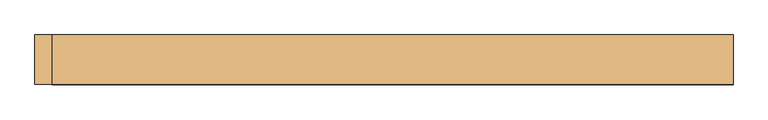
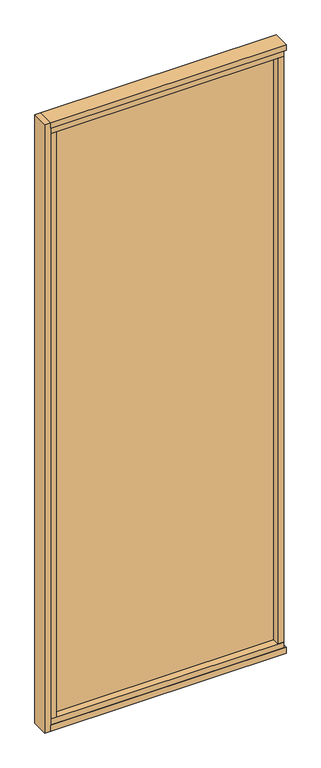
"""IFC4 building model written with IfcOpenShell, lengths in millimetres: door geometry, Mobiliário_Mobiliário de Escritório_Painel de Vidro Simples - AUT E AUL (Inicial e Final)_Marelli : AUT - Temperado."""

from ifc_helpers import new_model, si_unit, frame, origin, origin_with_axes, place, context, project, spatial, polyline, outline, extrude, source, transform, mapped, element, save


def door_6af38df9(model_context):
    return source(origin(), model_context, "Body", "SweptSolid", [
        extrude(outline(polyline([(600.0, -42.5), (-570.0, -42.5), (-570.0, 42.5), (600.0, 42.5), (600.0, -42.5)])), origin_with_axes(), (0.0, 0.0, 1.0), 30.0),
        extrude(outline(polyline([(590.0, -39.5), (-570.0, -39.5), (-570.0, 39.5), (590.0, 39.5), (590.0, -39.5)])), frame((0.0, 0.0, 30.0), z_axis=(0.0, 0.0, 1.0), x_axis=(1.0, 0.0, 0.0)), (0.0, 0.0, 1.0), 30.0),
        extrude(outline(polyline([(600.0, -42.5), (-570.0, -42.5), (-570.0, 42.5), (600.0, 42.5), (600.0, -42.5)])), frame((0.0, 0.0, 3170.0), z_axis=(0.0, 0.0, 1.0), x_axis=(1.0, 0.0, 0.0)), (0.0, 0.0, 1.0), 30.0),
        extrude(outline(polyline([(590.0, -39.5), (-570.0, -39.5), (-570.0, 39.5), (590.0, 39.5), (590.0, -39.5)])), frame((0.0, 0.0, 3140.0), z_axis=(0.0, 0.0, 1.0), x_axis=(1.0, 0.0, 0.0)), (0.0, 0.0, 1.0), 30.0),
        extrude(outline(polyline([(-600.0, 42.5), (-570.0, 42.5), (-570.0, -42.5), (-600.0, -42.5), (-600.0, 42.5)])), origin_with_axes(), (0.0, 0.0, 1.0), 3200.0),
        extrude(outline(polyline([(600.0, 21.5), (600.0, -21.5), (590.0, -21.5), (590.0, 21.5), (600.0, 21.5)])), frame((0.0, 0.0, 30.0), z_axis=(0.0, 0.0, 1.0), x_axis=(1.0, 0.0, 0.0)), (0.0, 0.0, 1.0), 3140.0),
        extrude(outline(polyline([(-540.0, -39.5), (-570.0, -39.5), (-570.0, 39.5), (-540.0, 39.5), (-540.0, -39.5)])), frame((0.0, 0.0, 60.0), z_axis=(0.0, 0.0, 1.0), x_axis=(1.0, 0.0, 0.0)), (0.0, 0.0, 1.0), 3080.0),
        extrude(outline(polyline([(560.0, -39.5), (560.0, 39.5), (590.0, 39.5), (590.0, -39.5), (560.0, -39.5)])), frame((0.0, 0.0, 60.0), z_axis=(0.0, 0.0, 1.0), x_axis=(1.0, 0.0, 0.0)), (0.0, 0.0, 1.0), 3080.0),
        extrude(outline(polyline([(560.0, -3.0), (-540.0, -3.0), (-540.0, 3.0), (560.0, 3.0), (560.0, -3.0)])), frame((0.0, 0.0, 60.0), z_axis=(0.0, 0.0, 1.0), x_axis=(1.0, 0.0, 0.0)), (0.0, 0.0, 1.0), 3080.0),
    ])


if __name__ == "__main__":
    model = new_model("IFC4")
    model_context = context("Model", 3, world=origin())
    ifc_project = project(units=[si_unit("LENGTHUNIT", "METRE", prefix="MILLI")], contexts=[model_context])
    site = spatial("IfcSite", under=ifc_project)
    building = spatial("IfcBuilding", under=site)
    placement = place(None, origin())
    door_shape = door_6af38df9(model_context)
    element("IfcDoor", 1, ObjectType="Mobiliário_Mobiliário de Escritório_Painel de Vidro Simples - AUT E AUL (Inicial e Final)_Marelli : AUT - Temperado", at=placement, inside=building, context=model_context, shape_type="MappedRepresentation", body=[
        mapped(door_shape, transform((0.0, 0.0, 0.0), x_axis=(1.0, 0.0, 0.0), y_axis=(0.0, 1.0, 0.0), z_axis=(0.0, 0.0, 1.0))),
    ])
    save(model, "model.ifc")
